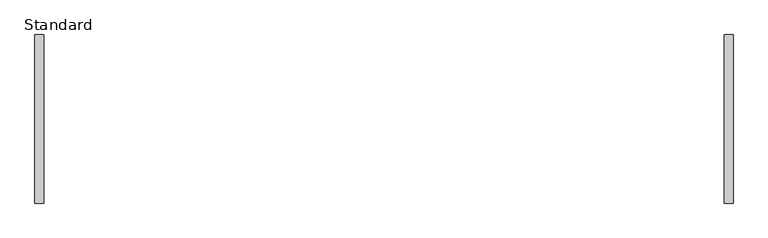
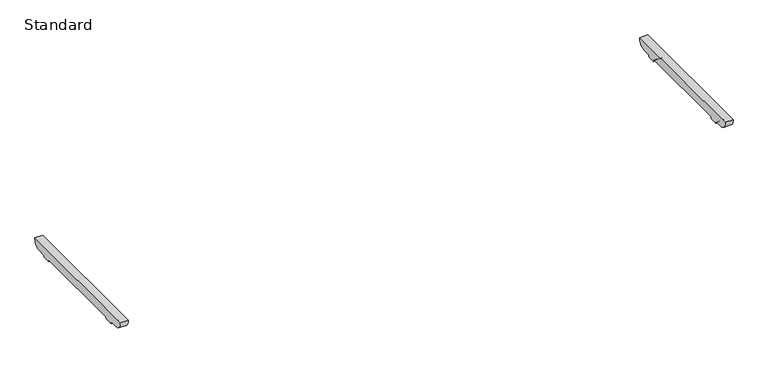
"""IFC4 building model written with IfcOpenShell, lengths in millimetres: furniture geometry, BDG_BossDesign_Tbls_AgentTables4Legs_Nested : Standard."""

from ifc_helpers import new_model, si_unit, point, frame, frame_2d, origin, place, context, project, spatial, polyline, circle_curve, trimmed, segment, composite_curve, outline, extrude, source, transform, mapped, element, save


def standard_21455343(model_context):
    return source(origin(), model_context, "Body", "SweptSolid", [
        extrude(outline(composite_curve([segment(polyline([(380.5450184, 672.0), (342.7000122, 672.0)]), True, "CONTINUOUS"), segment(trimmed(circle_curve(frame_2d((342.7000122, 660.0)), 12.0), [point((342.7000122, 672.0))], [point((330.7000122, 660.0))], True, "CARTESIAN"), True, "CONTINUOUS"), segment(polyline([(330.7000122, 660.0), (285.7000122, 660.0)]), True, "CONTINUOUS"), segment(trimmed(circle_curve(frame_2d((273.7000122, 660.0)), 12.0), [point((285.7000122, 660.0))], [point((273.7000122, 672.0))], True, "CARTESIAN"), True, "CONTINUOUS"), segment(polyline([(273.7000122, 672.0), (-273.7000122, 672.0)]), True, "CONTINUOUS"), segment(trimmed(circle_curve(frame_2d((-273.7000122, 660.0)), 12.0), [point((-273.7000122, 672.0))], [point((-285.7000122, 660.0))], True, "CARTESIAN"), True, "CONTINUOUS"), segment(polyline([(-285.7000122, 660.0), (-330.7000122, 660.0)]), True, "CONTINUOUS"), segment(trimmed(circle_curve(frame_2d((-342.7000122, 660.0)), 12.0), [point((-330.7000122, 660.0))], [point((-342.7000122, 672.0))], True, "CARTESIAN"), True, "CONTINUOUS"), segment(polyline([(-342.7000122, 672.0), (-380.5450184, 672.0)]), True, "CONTINUOUS"), segment(trimmed(circle_curve(frame_2d((-378.2220439, 716.5514119)), 44.6119324), [point((-380.5450184, 672.0))], [point((-422.5, 722.0))], False, "CARTESIAN"), True, "CONTINUOUS"), segment(polyline([(-422.5, 722.0), (422.5, 722.0)]), True, "CONTINUOUS"), segment(trimmed(circle_curve(frame_2d((378.2220439, 716.5514119)), 44.6119324), [point((422.5, 722.0))], [point((380.5450184, 672.0))], False, "CARTESIAN"), True, "CONTINUOUS")], self_intersect=False)), frame((1705.0, 0.0, 0.0), z_axis=(1.0, 0.0, 0.0), x_axis=(0.0, 1.0, 0.0)), (0.0, 0.0, 1.0), 45.0),
        extrude(outline(composite_curve([segment(polyline([(380.5450184, 672.0), (342.7000122, 672.0)]), True, "CONTINUOUS"), segment(trimmed(circle_curve(frame_2d((342.7000122, 660.0)), 12.0), [point((342.7000122, 672.0))], [point((330.7000122, 660.0))], True, "CARTESIAN"), True, "CONTINUOUS"), segment(polyline([(330.7000122, 660.0), (285.7000122, 660.0)]), True, "CONTINUOUS"), segment(trimmed(circle_curve(frame_2d((273.7000122, 660.0)), 12.0), [point((285.7000122, 660.0))], [point((273.7000122, 672.0))], True, "CARTESIAN"), True, "CONTINUOUS"), segment(polyline([(273.7000122, 672.0), (-273.7000122, 672.0)]), True, "CONTINUOUS"), segment(trimmed(circle_curve(frame_2d((-273.7000122, 660.0)), 12.0), [point((-273.7000122, 672.0))], [point((-285.7000122, 660.0))], True, "CARTESIAN"), True, "CONTINUOUS"), segment(polyline([(-285.7000122, 660.0), (-330.7000122, 660.0)]), True, "CONTINUOUS"), segment(trimmed(circle_curve(frame_2d((-342.7000122, 660.0)), 12.0), [point((-330.7000122, 660.0))], [point((-342.7000122, 672.0))], True, "CARTESIAN"), True, "CONTINUOUS"), segment(polyline([(-342.7000122, 672.0), (-380.5450184, 672.0)]), True, "CONTINUOUS"), segment(trimmed(circle_curve(frame_2d((-378.2220439, 716.5514119)), 44.6119324), [point((-380.5450184, 672.0))], [point((-422.5, 722.0))], False, "CARTESIAN"), True, "CONTINUOUS"), segment(polyline([(-422.5, 722.0), (422.5, 722.0)]), True, "CONTINUOUS"), segment(trimmed(circle_curve(frame_2d((378.2220439, 716.5514119)), 44.6119324), [point((422.5, 722.0))], [point((380.5450184, 672.0))], False, "CARTESIAN"), True, "CONTINUOUS")], self_intersect=False)), frame((-1750.0, 0.0, 0.0), z_axis=(1.0, 0.0, 0.0), x_axis=(0.0, 1.0, 0.0)), (0.0, 0.0, 1.0), 45.0),
    ])


if __name__ == "__main__":
    model = new_model("IFC4")
    model_context = context("Model", 3, world=origin())
    ifc_project = project(units=[si_unit("LENGTHUNIT", "METRE", prefix="MILLI")], contexts=[model_context])
    site = spatial("IfcSite", under=ifc_project)
    building = spatial("IfcBuilding", under=site)
    placement = place(None, origin())
    standard_shape = standard_21455343(model_context)
    element("IfcFurniture", 1, ObjectType="BDG_BossDesign_Tbls_AgentTables4Legs_Nested : Standard", at=placement, inside=building, context=model_context, shape_type="MappedRepresentation", body=[
        mapped(standard_shape, transform((0.0, 0.0, 0.0), x_axis=(1.0, 0.0, 0.0), y_axis=(0.0, 1.0, 0.0), z_axis=(0.0, 0.0, 1.0))),
    ])
    save(model, "model.ifc")
